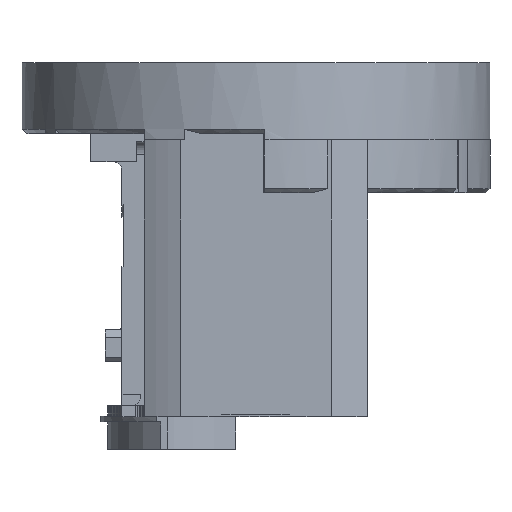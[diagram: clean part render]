
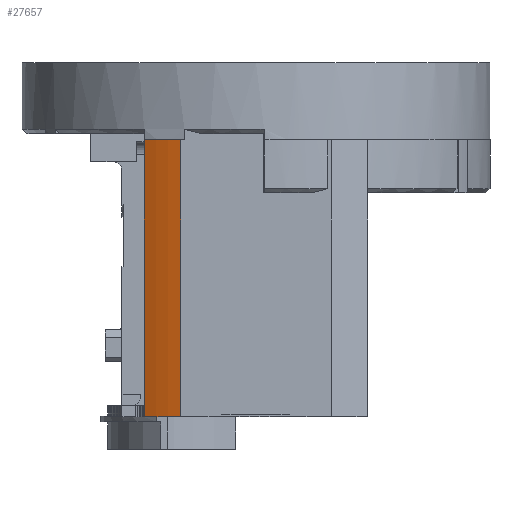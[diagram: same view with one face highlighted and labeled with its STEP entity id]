
A CAD part, left-side view. The second image highlights one B-rep face of the part: STEP entity #27657.
In plain terms, the highlighted cylindrical face has radius 26.5 mm (diameter 53 mm), a partial arc.
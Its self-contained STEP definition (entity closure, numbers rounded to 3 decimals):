
#658 = PLANE('',#659);
#659 = AXIS2_PLACEMENT_3D('',#660,#661,#662);
#660 = CARTESIAN_POINT('',(0.044,0.146,-41.9));
#661 = DIRECTION('',(0.,0.,1.));
#662 = DIRECTION('',(1.,0.,-0.));
#10374 = PLANE('',#10375);
#10375 = AXIS2_PLACEMENT_3D('',#10376,#10377,#10378);
#10376 = CARTESIAN_POINT('',(-6.5,12.6,-41.9));
#10377 = DIRECTION('',(0.,-1.,0.));
#10378 = DIRECTION('',(-1.,0.,0.));
#26660 = PLANE('',#26661);
#26661 = AXIS2_PLACEMENT_3D('',#26662,#26663,#26664);
#26662 = CARTESIAN_POINT('',(-25.1,12.6,-41.9));
#26663 = DIRECTION('',(1.,0.,-0.));
#26664 = DIRECTION('',(0.,-1.,0.));
#27427 = VERTEX_POINT('',#27428);
#27428 = CARTESIAN_POINT('',(-25.1,8.499,-41.9));
#27451 = EDGE_CURVE('',#27452,#27427,#27454,.T.);
#27452 = VERTEX_POINT('',#27453);
#27453 = CARTESIAN_POINT('',(-25.1,8.499,-10.7));
#27454 = SURFACE_CURVE('',#27455,(#27459,#27466),.PCURVE_S1.);
#27455 = LINE('',#27456,#27457);
#27456 = CARTESIAN_POINT('',(-25.1,8.499,-2.));
#27457 = VECTOR('',#27458,1.);
#27458 = DIRECTION('',(0.,0.,-1.));
#27459 = PCURVE('',#26660,#27460);
#27460 = DEFINITIONAL_REPRESENTATION('',(#27461),#27465);
#27461 = LINE('',#27462,#27463);
#27462 = CARTESIAN_POINT('',(4.101,-39.9));
#27463 = VECTOR('',#27464,1.);
#27464 = DIRECTION('',(0.,1.));
#27465 = ( GEOMETRIC_REPRESENTATION_CONTEXT(2) 
PARAMETRIC_REPRESENTATION_CONTEXT() REPRESENTATION_CONTEXT('2D SPACE',''
  ) );
#27466 = PCURVE('',#27467,#27472);
#27467 = CYLINDRICAL_SURFACE('',#27468,26.5);
#27468 = AXIS2_PLACEMENT_3D('',#27469,#27470,#27471);
#27469 = CARTESIAN_POINT('',(0.,0.,-50.));
#27470 = DIRECTION('',(0.,0.,1.));
#27471 = DIRECTION('',(1.,0.,-0.));
#27472 = DEFINITIONAL_REPRESENTATION('',(#27473),#27477);
#27473 = LINE('',#27474,#27475);
#27474 = CARTESIAN_POINT('',(2.815,48.));
#27475 = VECTOR('',#27476,1.);
#27476 = DIRECTION('',(-0.,-1.));
#27477 = ( GEOMETRIC_REPRESENTATION_CONTEXT(2) 
PARAMETRIC_REPRESENTATION_CONTEXT() REPRESENTATION_CONTEXT('2D SPACE',''
  ) );
#27494 = PLANE('',#27495);
#27495 = AXIS2_PLACEMENT_3D('',#27496,#27497,#27498);
#27496 = CARTESIAN_POINT('',(0.,0.,-10.7));
#27497 = DIRECTION('',(0.,0.,1.));
#27498 = DIRECTION('',(1.,0.,-0.));
#27657 = ADVANCED_FACE('',(#27658),#27467,.T.);
#27658 = FACE_BOUND('',#27659,.T.);
#27659 = EDGE_LOOP('',(#27660,#27685,#27707,#27708));
#27660 = ORIENTED_EDGE('',*,*,#27661,.T.);
#27661 = EDGE_CURVE('',#27662,#27664,#27666,.T.);
#27662 = VERTEX_POINT('',#27663);
#27663 = CARTESIAN_POINT('',(-23.313,12.6,-10.7));
#27664 = VERTEX_POINT('',#27665);
#27665 = CARTESIAN_POINT('',(-23.313,12.6,-41.9));
#27666 = SURFACE_CURVE('',#27667,(#27671,#27678),.PCURVE_S1.);
#27667 = LINE('',#27668,#27669);
#27668 = CARTESIAN_POINT('',(-23.313,12.6,-2.));
#27669 = VECTOR('',#27670,1.);
#27670 = DIRECTION('',(0.,0.,-1.));
#27671 = PCURVE('',#27467,#27672);
#27672 = DEFINITIONAL_REPRESENTATION('',(#27673),#27677);
#27673 = LINE('',#27674,#27675);
#27674 = CARTESIAN_POINT('',(2.646,48.));
#27675 = VECTOR('',#27676,1.);
#27676 = DIRECTION('',(-0.,-1.));
#27677 = ( GEOMETRIC_REPRESENTATION_CONTEXT(2) 
PARAMETRIC_REPRESENTATION_CONTEXT() REPRESENTATION_CONTEXT('2D SPACE',''
  ) );
#27678 = PCURVE('',#10374,#27679);
#27679 = DEFINITIONAL_REPRESENTATION('',(#27680),#27684);
#27680 = LINE('',#27681,#27682);
#27681 = CARTESIAN_POINT('',(16.813,-39.9));
#27682 = VECTOR('',#27683,1.);
#27683 = DIRECTION('',(0.,1.));
#27684 = ( GEOMETRIC_REPRESENTATION_CONTEXT(2) 
PARAMETRIC_REPRESENTATION_CONTEXT() REPRESENTATION_CONTEXT('2D SPACE',''
  ) );
#27685 = ORIENTED_EDGE('',*,*,#27686,.T.);
#27686 = EDGE_CURVE('',#27664,#27427,#27687,.T.);
#27687 = SURFACE_CURVE('',#27688,(#27693,#27700),.PCURVE_S1.);
#27688 = CIRCLE('',#27689,26.5);
#27689 = AXIS2_PLACEMENT_3D('',#27690,#27691,#27692);
#27690 = CARTESIAN_POINT('',(0.,0.,-41.9));
#27691 = DIRECTION('',(0.,0.,1.));
#27692 = DIRECTION('',(1.,0.,-0.));
#27693 = PCURVE('',#27467,#27694);
#27694 = DEFINITIONAL_REPRESENTATION('',(#27695),#27699);
#27695 = LINE('',#27696,#27697);
#27696 = CARTESIAN_POINT('',(0.,8.1));
#27697 = VECTOR('',#27698,1.);
#27698 = DIRECTION('',(1.,0.));
#27699 = ( GEOMETRIC_REPRESENTATION_CONTEXT(2) 
PARAMETRIC_REPRESENTATION_CONTEXT() REPRESENTATION_CONTEXT('2D SPACE',''
  ) );
#27700 = PCURVE('',#658,#27701);
#27701 = DEFINITIONAL_REPRESENTATION('',(#27702),#27706);
#27702 = CIRCLE('',#27703,26.5);
#27703 = AXIS2_PLACEMENT_2D('',#27704,#27705);
#27704 = CARTESIAN_POINT('',(-0.044,-0.146));
#27705 = DIRECTION('',(1.,0.));
#27706 = ( GEOMETRIC_REPRESENTATION_CONTEXT(2) 
PARAMETRIC_REPRESENTATION_CONTEXT() REPRESENTATION_CONTEXT('2D SPACE',''
  ) );
#27707 = ORIENTED_EDGE('',*,*,#27451,.F.);
#27708 = ORIENTED_EDGE('',*,*,#27709,.F.);
#27709 = EDGE_CURVE('',#27662,#27452,#27710,.T.);
#27710 = SURFACE_CURVE('',#27711,(#27716,#27723),.PCURVE_S1.);
#27711 = CIRCLE('',#27712,26.5);
#27712 = AXIS2_PLACEMENT_3D('',#27713,#27714,#27715);
#27713 = CARTESIAN_POINT('',(0.,0.,-10.7));
#27714 = DIRECTION('',(0.,0.,1.));
#27715 = DIRECTION('',(1.,0.,-0.));
#27716 = PCURVE('',#27467,#27717);
#27717 = DEFINITIONAL_REPRESENTATION('',(#27718),#27722);
#27718 = LINE('',#27719,#27720);
#27719 = CARTESIAN_POINT('',(0.,39.3));
#27720 = VECTOR('',#27721,1.);
#27721 = DIRECTION('',(1.,0.));
#27722 = ( GEOMETRIC_REPRESENTATION_CONTEXT(2) 
PARAMETRIC_REPRESENTATION_CONTEXT() REPRESENTATION_CONTEXT('2D SPACE',''
  ) );
#27723 = PCURVE('',#27494,#27724);
#27724 = DEFINITIONAL_REPRESENTATION('',(#27725),#27729);
#27725 = CIRCLE('',#27726,26.5);
#27726 = AXIS2_PLACEMENT_2D('',#27727,#27728);
#27727 = CARTESIAN_POINT('',(0.,0.));
#27728 = DIRECTION('',(1.,0.));
#27729 = ( GEOMETRIC_REPRESENTATION_CONTEXT(2) 
PARAMETRIC_REPRESENTATION_CONTEXT() REPRESENTATION_CONTEXT('2D SPACE',''
  ) );
